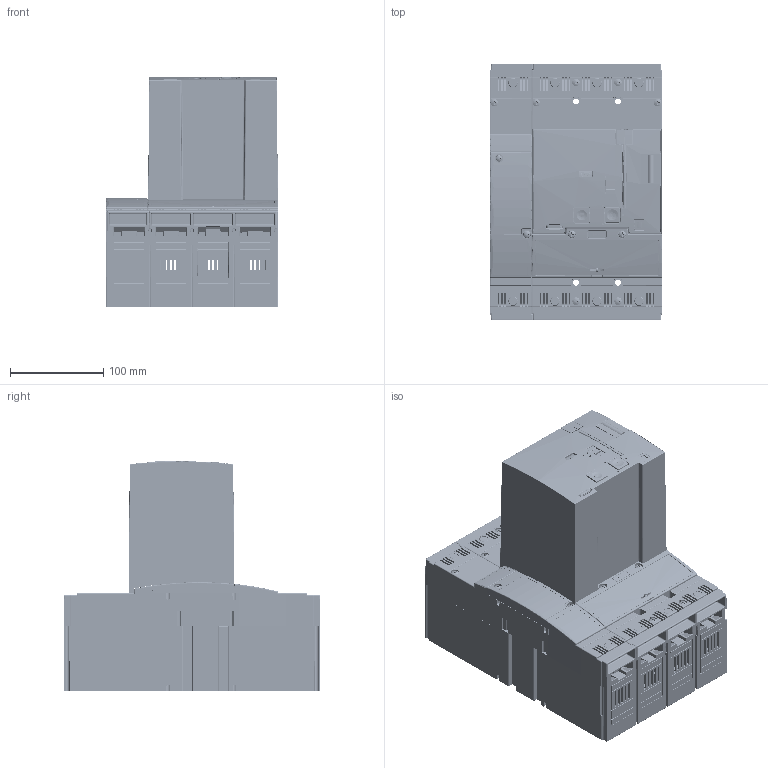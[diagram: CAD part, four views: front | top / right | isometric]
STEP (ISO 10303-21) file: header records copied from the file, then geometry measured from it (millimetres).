
FILE_DESCRIPTION (( 'STEP AP214' ), '1' );
FILE_NAME ('BH630__405_406__SE-BH__MP-BH.step', '2011-07-29T07:27:03', ( 'Radek Veselý' ), ( 'Siemens and Partners' ), 'SwSTEP 2.0', 'SolidWorks 2006303', '' );
FILE_SCHEMA (( 'AUTOMOTIVE_DESIGN' ));
Length unit declared in the file: millimetre
Products named in the file (1): BH630__405_406__SE-BH__MP-BH
Bounding box: 185 x 275 x 246.97 mm (x, y, z)
Volume: 1843752.7 mm3; surface area: 1191224.3 mm2
Topology: 46 solids, 46 shells, 12781 faces, 34607 edges, 21912 vertices
Faces by surface type: plane 8146, cylinder 3081, bspline 554, cone 346, torus 328, sphere 326
Entity records: 567108 total; most frequent: CARTESIAN_POINT 111532, ORIENTED_EDGE 68594, DIRECTION 61747, EDGE_CURVE 34297, LINE 24571, VECTOR 24571, VERTEX_POINT 21898, AXIS2_PLACEMENT_3D 18588
